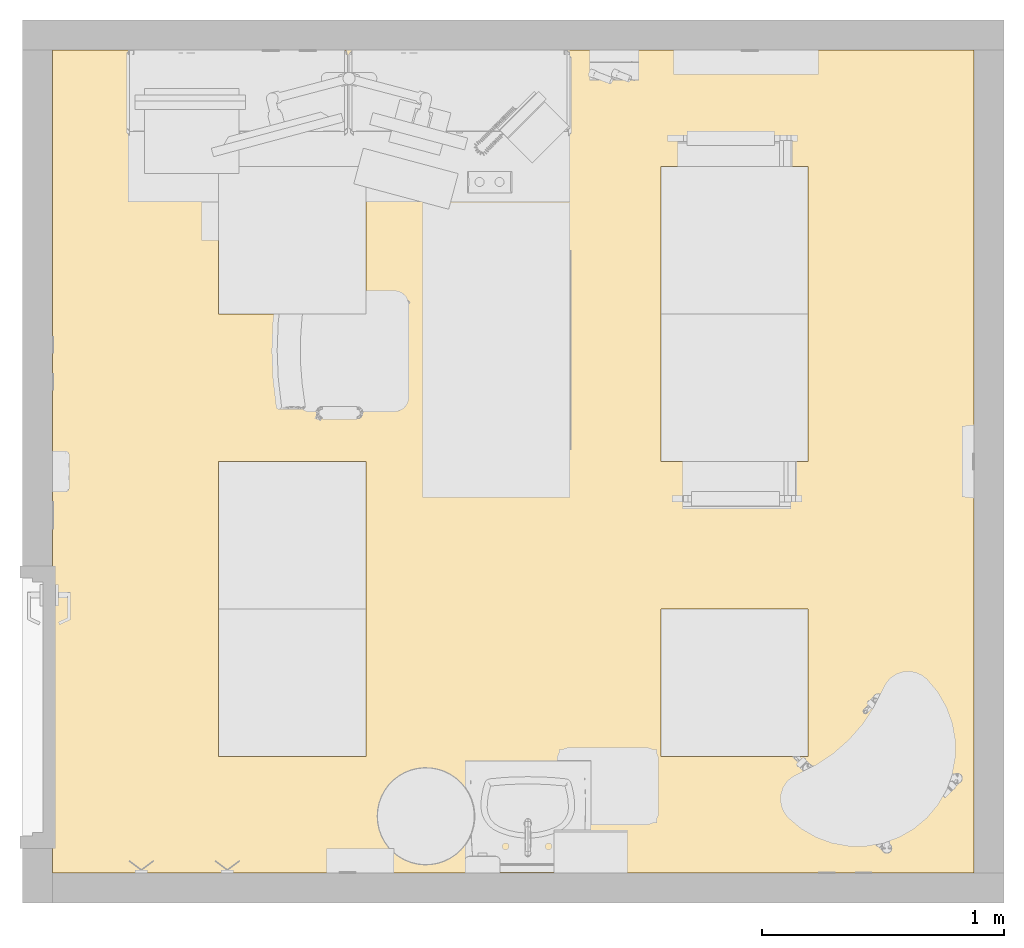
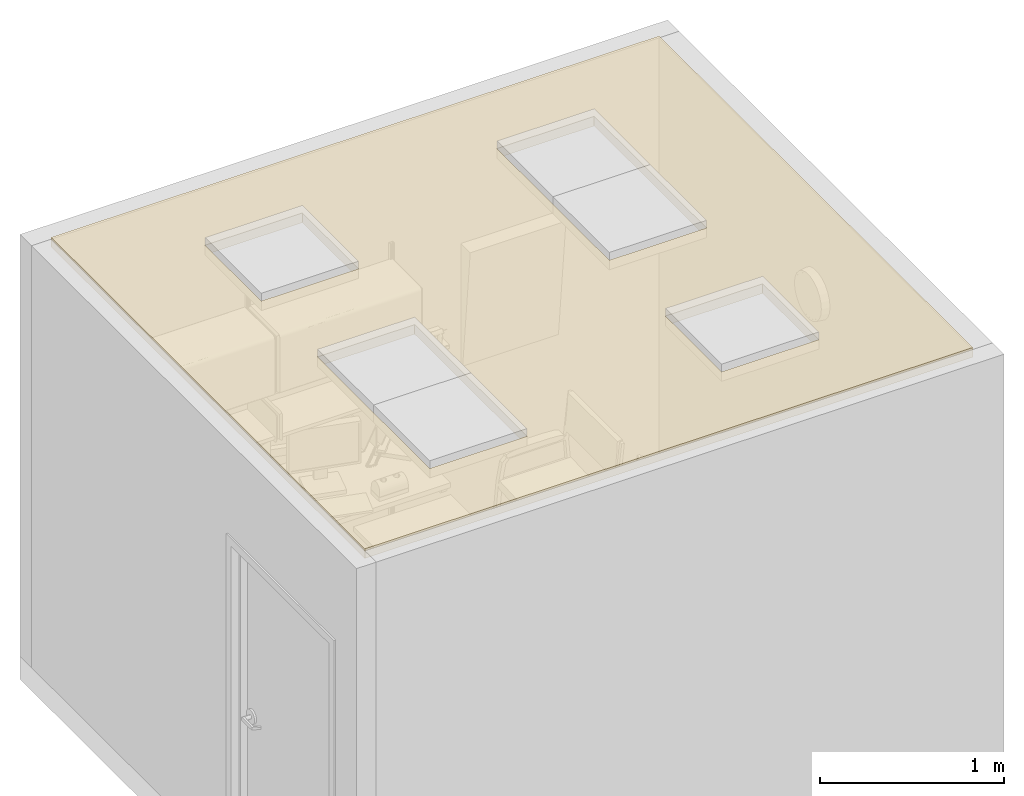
# One storey, part 3 of 9: 1 covering.
"""IFC2X3 building model written with IfcOpenShell, lengths in feet."""

from ifc_helpers import new_model, entity, si_unit, converted_unit, derived_unit, direction, frame, origin, place, context, subcontext, project, spatial, polyline, outline, extrude, material, layer, layer_set, layer_usage, element, save


model = new_model("IFC2X3")

# Units and contexts
model_context = context("Model", 3, precision=0.0001, world=origin(), true_north=direction((6.12303176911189e-17, 1.0)))
body_context = subcontext(model_context, "Body", "Model", "MODEL_VIEW")
ifc_project = project(units=[converted_unit("LENGTHUNIT", "FOOT", entity("IfcRatioMeasure", 0.3048), si_unit("LENGTHUNIT", "METRE"), dimensions=[1, 0, 0, 0, 0, 0, 0]), converted_unit("AREAUNIT", "SQUARE FOOT", entity("IfcRatioMeasure", 0.09290304), si_unit("AREAUNIT", "SQUARE_METRE"), dimensions=[2, 0, 0, 0, 0, 0, 0]), converted_unit("VOLUMEUNIT", "CUBIC FOOT", entity("IfcRatioMeasure", 0.028316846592), si_unit("VOLUMEUNIT", "CUBIC_METRE"), dimensions=[3, 0, 0, 0, 0, 0, 0]), converted_unit("PLANEANGLEUNIT", "DEGREE", entity("IfcRatioMeasure", 0.0174532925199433), si_unit("PLANEANGLEUNIT", "RADIAN"), dimensions=[0, 0, 0, 0, 0, 0, 0]), si_unit("MASSUNIT", "GRAM", prefix="KILO"), derived_unit("MASSDENSITYUNIT", [(si_unit("MASSUNIT", "GRAM", prefix="KILO"), 1), (si_unit("LENGTHUNIT", "METRE"), -3)]), si_unit("TIMEUNIT", "SECOND"), si_unit("FREQUENCYUNIT", "HERTZ"), si_unit("THERMODYNAMICTEMPERATUREUNIT", "DEGREE_CELSIUS"), derived_unit("THERMALTRANSMITTANCEUNIT", [(si_unit("MASSUNIT", "GRAM", prefix="KILO"), 1), (si_unit("THERMODYNAMICTEMPERATUREUNIT", "KELVIN"), -1), (si_unit("TIMEUNIT", "SECOND"), -3)]), derived_unit("VOLUMETRICFLOWRATEUNIT", [(si_unit("LENGTHUNIT", "METRE"), 3), (si_unit("TIMEUNIT", "SECOND"), -1)]), si_unit("ELECTRICCURRENTUNIT", "AMPERE"), si_unit("ELECTRICVOLTAGEUNIT", "VOLT"), si_unit("POWERUNIT", "WATT"), si_unit("FORCEUNIT", "NEWTON"), si_unit("ILLUMINANCEUNIT", "LUX"), si_unit("LUMINOUSFLUXUNIT", "LUMEN"), si_unit("LUMINOUSINTENSITYUNIT", "CANDELA"), derived_unit("USERDEFINED", [(si_unit("MASSUNIT", "GRAM", prefix="KILO"), -1), (si_unit("LENGTHUNIT", "METRE"), -2), (si_unit("TIMEUNIT", "SECOND"), 3), (si_unit("LUMINOUSFLUXUNIT", "LUMEN"), 1)]), derived_unit("LINEARVELOCITYUNIT", [(si_unit("LENGTHUNIT", "METRE"), 1), (si_unit("TIMEUNIT", "SECOND"), -1)]), si_unit("PRESSUREUNIT", "PASCAL"), derived_unit("USERDEFINED", [(si_unit("LENGTHUNIT", "METRE"), -2), (si_unit("MASSUNIT", "GRAM", prefix="KILO"), 1), (si_unit("TIMEUNIT", "SECOND"), -2)])], contexts=[model_context])

# Site, building, storey, space
site_placement = place(None, origin())
site = spatial("IfcSite", under=ifc_project, at=site_placement, Name="Default", CompositionType="ELEMENT")
building_placement = place(site_placement, origin())
building = spatial("IfcBuilding", under=site, at=building_placement, Name="AUDIOLOGY AND SPEECH PATHOLOGY (Ch. 204)", CompositionType="ELEMENT")
storey_placement = place(building_placement, frame((0.0, 0.0, 42.0)))
storey = spatial("IfcBuildingStorey", under=building, at=storey_placement, Name="AUD01 - Audiology Rehabilitation/Counseling", CompositionType="ELEMENT", Elevation=42.0)
space_placement = place(storey_placement, origin())
space = spatial("IfcSpace", under=storey, at=space_placement, Name="(AUD01)", CompositionType="ELEMENT", InteriorOrExteriorSpace="INTERNAL")

# Covering
ifc_material_1 = material(Name="<Unnamed>")
ifc_layer_1 = layer(ifc_material_1, 0.166666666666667)
ifc_material_2 = material(Name="act")
ifc_layer_2 = layer(ifc_material_2, 0.0416666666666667)
ifc_layer_set = layer_set([ifc_layer_1, ifc_layer_2], Name="Compound Ceiling:2' x 2' ACT System")
ifc_layer_usage = layer_usage(ifc_layer_set, "AXIS3", "POSITIVE", 0.0)
covering_placement = place(space_placement, origin())
element("IfcCovering", 1, at=covering_placement, inside=space, material=ifc_layer_usage, Name="Compound Ceiling:2' x 2' ACT System", ObjectType="Compound Ceiling:2' x 2' ACT System", PredefinedType="CEILING", context=body_context, shape_type="SweptSolid", body=[
    extrude(outline(polyline([(-6.24999999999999, -5.58333333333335), (6.25000000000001, -5.58333333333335), (6.24999999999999, 5.58333333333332), (-6.25000000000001, 5.58333333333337), (-6.24999999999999, -5.58333333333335)]), holes=[polyline([(2.0, 0.0), (2.0, 4.0), (4.0, 4.0), (4.0, 0.0), (2.0, 0.0)]), polyline([(2.0, -2.0), (4.0, -2.0), (4.0, -4.0), (2.0, -4.0), (2.0, -2.0)]), polyline([(-4.0, 4.0), (-2.0, 4.0), (-2.0, 2.0), (-4.0, 2.0), (-4.0, 4.0)]), polyline([(-2.0, -4.0), (-4.0, -4.0), (-4.0, 0.0), (-2.0, 0.0), (-2.0, -4.0)])]), frame((5.42708333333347, 6.17708333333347, 9.0)), (0.0, 0.0, 1.0), 0.208333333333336),
])

save(model, "model.ifc")
